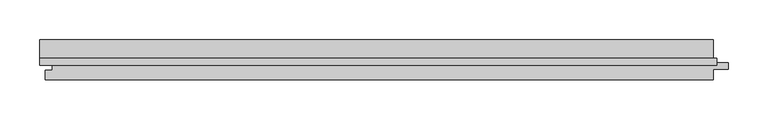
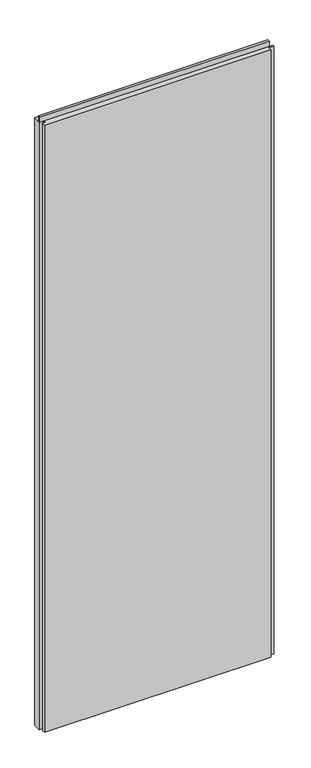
"""IFC4 building model written with IfcOpenShell, lengths in millimetres: plate geometry, Trimo_Qbiss Screen_Normal Panel-VERTICAL : HR - FB."""

from ifc_helpers import new_model, si_unit, frame, origin, place, context, project, spatial, polyline, outline, extrude, source, transform, mapped, element, save


def plate_6156d926(model_context):
    return source(origin(), model_context, "Body", "SweptSolid", [
        extrude(outline(polyline([(-425.0, 93.9), (-425.0, 102.6), (425.0, 102.6), (425.0, 93.9), (-425.0, 93.9)])), frame((0.0, 0.0, 2390.5), z_axis=(0.0, 0.0, 1.0), x_axis=(1.0, 0.0, 0.0)), (0.0, 0.0, 1.0), 19.0),
        extrude(outline(polyline([(421.0, 97.0), (439.5, 97.0), (439.5, 89.0), (421.0, 89.0), (421.0, 76.0), (-418.0, 76.0), (-418.0, 88.0), (-409.5, 88.0), (-409.5, 98.0), (-425.0, 98.0), (-425.0, 126.0), (421.0, 126.0), (421.0, 97.0)])), frame((0.0, 0.0, 12.5), z_axis=(0.0, 0.0, 1.0), x_axis=(1.0, 0.0, 0.0)), (0.0, 0.0, 1.0), 2375.0),
    ])


if __name__ == "__main__":
    model = new_model("IFC4")
    model_context = context("Model", 3, world=origin())
    ifc_project = project(units=[si_unit("LENGTHUNIT", "METRE", prefix="MILLI")], contexts=[model_context])
    site = spatial("IfcSite", under=ifc_project)
    building = spatial("IfcBuilding", under=site)
    placement = place(None, origin())
    plate_shape = plate_6156d926(model_context)
    element("IfcPlate", 1, ObjectType="Trimo_Qbiss Screen_Normal Panel-VERTICAL : HR - FB", at=placement, inside=building, context=model_context, shape_type="MappedRepresentation", body=[
        mapped(plate_shape, transform((0.0, 0.0, 0.0), x_axis=(1.0, 0.0, 0.0), y_axis=(0.0, 1.0, 0.0), z_axis=(0.0, 0.0, 1.0))),
    ])
    save(model, "model.ifc")
